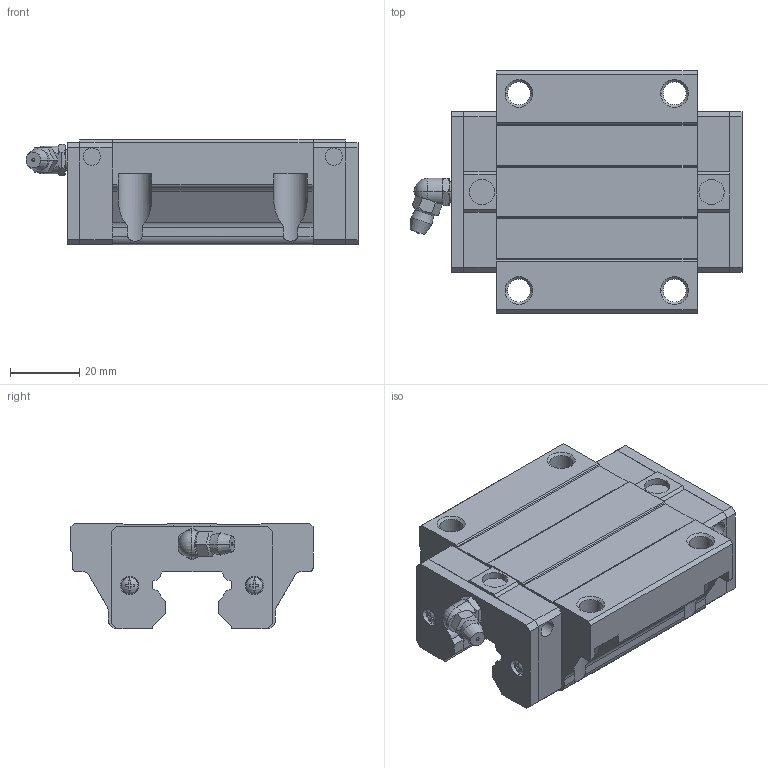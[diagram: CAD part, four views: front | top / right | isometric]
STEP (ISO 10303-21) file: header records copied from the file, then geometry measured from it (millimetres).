
FILE_DESCRIPTION(('starvars output'),'2;1');
FILE_NAME('cv20190610061031000016773.stp','06:10:31 2019/06/10',( 'Thomas Industrial Network Germany GmbH'),( 'Thomas Industrial Network Germany GmbH'),'unknown preprocess','ACIS' ,'unknown authorization');
FILE_SCHEMA(('CONFIG_CONTROL_DESIGN {UNKNOWN IMPLEMENTATION LEVEL}'));
Length unit declared in the file: millimetre
Products named in the file (10): PRODUCT_ID_1; PRODUCT_ID_2; PRODUCT_ID_3; PRODUCT_ID_4; PRODUCT_ID_5; PRODUCT_ID_6; PRODUCT_ID_7; PRODUCT_ID_8; PRODUCT_ID_9; PRODUCT_ID_10
Bounding box: 96 x 70 x 30.5 mm (x, y, z)
Volume: 111245.2 mm3; surface area: 32029.5 mm2
Topology: 10 solids, 10 shells, 424 faces, 1125 edges, 726 vertices
Faces by surface type: plane 272, cylinder 84, cone 56, sphere 12
Entity records: 12726 total; most frequent: ORIENTED_EDGE 2242, CARTESIAN_POINT 2217, DIRECTION 1730, EDGE_CURVE 1121, VERTEX_POINT 726, VECTOR 712, LINE 712, AXIS2_PLACEMENT_3D 509
